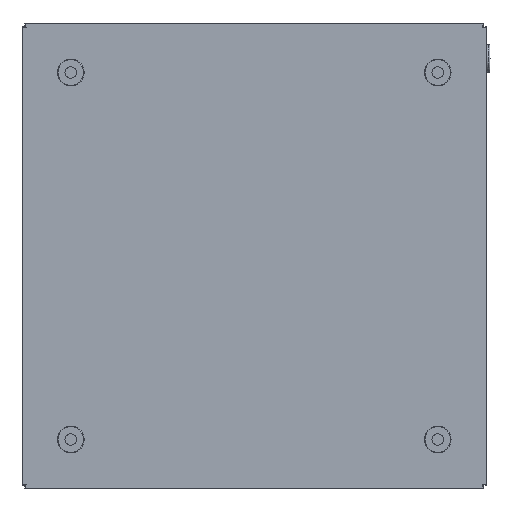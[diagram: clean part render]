
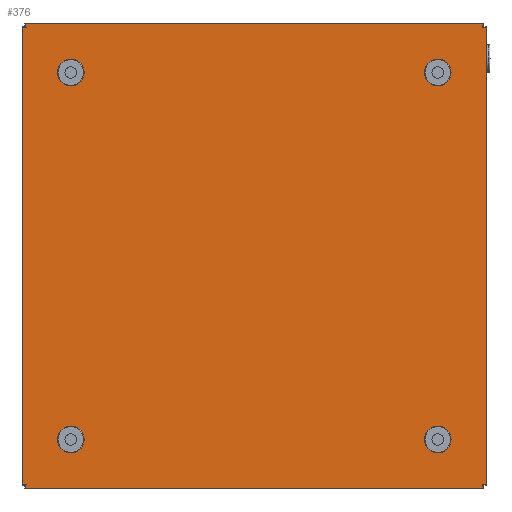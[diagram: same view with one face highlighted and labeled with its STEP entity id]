
A CAD part, front view. The second image highlights one B-rep face of the part: STEP entity #376.
In plain terms, the highlighted planar face has unit normal (0, -1, 0).
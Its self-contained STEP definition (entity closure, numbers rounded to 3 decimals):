
#376 = ADVANCED_FACE('',(#377,#397,#408,#428,#439),#561,.T.);
#377 = FACE_BOUND('',#378,.T.);
#378 = EDGE_LOOP('',(#379,#390));
#379 = ORIENTED_EDGE('',*,*,#380,.F.);
#380 = EDGE_CURVE('',#381,#383,#385,.T.);
#381 = VERTEX_POINT('',#382);
#382 = CARTESIAN_POINT('',(-79.,-1.2,-75.1));
#383 = VERTEX_POINT('',#384);
#384 = CARTESIAN_POINT('',(-79.,-1.2,-82.9));
#385 = CIRCLE('',#386,3.9);
#386 = AXIS2_PLACEMENT_3D('',#387,#388,#389);
#387 = CARTESIAN_POINT('',(-79.,-1.2,-79.));
#388 = DIRECTION('',(0.,-1.,0.));
#389 = DIRECTION('',(0.,0.,1.));
#390 = ORIENTED_EDGE('',*,*,#391,.F.);
#391 = EDGE_CURVE('',#383,#381,#392,.T.);
#392 = CIRCLE('',#393,3.9);
#393 = AXIS2_PLACEMENT_3D('',#394,#395,#396);
#394 = CARTESIAN_POINT('',(-79.,-1.2,-79.));
#395 = DIRECTION('',(0.,-1.,0.));
#396 = DIRECTION('',(0.,0.,1.));
#397 = FACE_BOUND('',#398,.T.);
#398 = EDGE_LOOP('',(#399));
#399 = ORIENTED_EDGE('',*,*,#400,.F.);
#400 = EDGE_CURVE('',#401,#401,#403,.T.);
#401 = VERTEX_POINT('',#402);
#402 = CARTESIAN_POINT('',(79.,-1.2,-82.9));
#403 = CIRCLE('',#404,3.9);
#404 = AXIS2_PLACEMENT_3D('',#405,#406,#407);
#405 = CARTESIAN_POINT('',(79.,-1.2,-79.));
#406 = DIRECTION('',(0.,-1.,0.));
#407 = DIRECTION('',(0.,0.,-1.));
#408 = FACE_BOUND('',#409,.T.);
#409 = EDGE_LOOP('',(#410,#421));
#410 = ORIENTED_EDGE('',*,*,#411,.F.);
#411 = EDGE_CURVE('',#412,#414,#416,.T.);
#412 = VERTEX_POINT('',#413);
#413 = CARTESIAN_POINT('',(79.,-1.2,82.9));
#414 = VERTEX_POINT('',#415);
#415 = CARTESIAN_POINT('',(79.,-1.2,75.1));
#416 = CIRCLE('',#417,3.9);
#417 = AXIS2_PLACEMENT_3D('',#418,#419,#420);
#418 = CARTESIAN_POINT('',(79.,-1.2,79.));
#419 = DIRECTION('',(0.,-1.,0.));
#420 = DIRECTION('',(0.,0.,1.));
#421 = ORIENTED_EDGE('',*,*,#422,.F.);
#422 = EDGE_CURVE('',#414,#412,#423,.T.);
#423 = CIRCLE('',#424,3.9);
#424 = AXIS2_PLACEMENT_3D('',#425,#426,#427);
#425 = CARTESIAN_POINT('',(79.,-1.2,79.));
#426 = DIRECTION('',(0.,-1.,0.));
#427 = DIRECTION('',(0.,0.,1.));
#428 = FACE_BOUND('',#429,.T.);
#429 = EDGE_LOOP('',(#430));
#430 = ORIENTED_EDGE('',*,*,#431,.F.);
#431 = EDGE_CURVE('',#432,#432,#434,.T.);
#432 = VERTEX_POINT('',#433);
#433 = CARTESIAN_POINT('',(-79.,-1.2,75.1));
#434 = CIRCLE('',#435,3.9);
#435 = AXIS2_PLACEMENT_3D('',#436,#437,#438);
#436 = CARTESIAN_POINT('',(-79.,-1.2,79.));
#437 = DIRECTION('',(0.,-1.,0.));
#438 = DIRECTION('',(0.,0.,-1.));
#439 = FACE_BOUND('',#440,.T.);
#440 = EDGE_LOOP('',(#441,#454,#465,#473,#484,#495,#503,#514,#525,#533,
    #544,#555));
#441 = ORIENTED_EDGE('',*,*,#442,.F.);
#442 = EDGE_CURVE('',#443,#445,#447,.T.);
#443 = VERTEX_POINT('',#444);
#444 = CARTESIAN_POINT('',(98.2,-1.2,98.2));
#445 = VERTEX_POINT('',#446);
#446 = CARTESIAN_POINT('',(100.,-1.2,98.574));
#447 = B_SPLINE_CURVE_WITH_KNOTS('',3,(#448,#449,#450,#451,#452,#453),
  .UNSPECIFIED.,.F.,.F.,(4,2,4),(0.004,0.005,
    0.006),.UNSPECIFIED.);
#448 = CARTESIAN_POINT('',(98.2,-1.2,98.2));
#449 = CARTESIAN_POINT('',(98.495,-1.2,98.287));
#450 = CARTESIAN_POINT('',(98.79,-1.2,98.371));
#451 = CARTESIAN_POINT('',(99.39,-1.2,98.498));
#452 = CARTESIAN_POINT('',(99.695,-1.2,98.543));
#453 = CARTESIAN_POINT('',(100.,-1.2,98.574));
#454 = ORIENTED_EDGE('',*,*,#455,.T.);
#455 = EDGE_CURVE('',#443,#456,#458,.T.);
#456 = VERTEX_POINT('',#457);
#457 = CARTESIAN_POINT('',(98.574,-1.2,100.));
#458 = B_SPLINE_CURVE_WITH_KNOTS('',3,(#459,#460,#461,#462,#463,#464),
  .UNSPECIFIED.,.F.,.F.,(4,2,4),(0.004,0.005,
    0.006),.UNSPECIFIED.);
#459 = CARTESIAN_POINT('',(98.2,-1.2,98.2));
#460 = CARTESIAN_POINT('',(98.287,-1.2,98.495));
#461 = CARTESIAN_POINT('',(98.371,-1.2,98.79));
#462 = CARTESIAN_POINT('',(98.498,-1.2,99.39));
#463 = CARTESIAN_POINT('',(98.543,-1.2,99.695));
#464 = CARTESIAN_POINT('',(98.574,-1.2,100.));
#465 = ORIENTED_EDGE('',*,*,#466,.T.);
#466 = EDGE_CURVE('',#456,#467,#469,.T.);
#467 = VERTEX_POINT('',#468);
#468 = CARTESIAN_POINT('',(-98.574,-1.2,100.));
#469 = LINE('',#470,#471);
#470 = CARTESIAN_POINT('',(1100.,-1.2,100.));
#471 = VECTOR('',#472,1.);
#472 = DIRECTION('',(-1.,0.,0.));
#473 = ORIENTED_EDGE('',*,*,#474,.F.);
#474 = EDGE_CURVE('',#475,#467,#477,.T.);
#475 = VERTEX_POINT('',#476);
#476 = CARTESIAN_POINT('',(-98.2,-1.2,98.2));
#477 = B_SPLINE_CURVE_WITH_KNOTS('',3,(#478,#479,#480,#481,#482,#483),
  .UNSPECIFIED.,.F.,.F.,(4,2,4),(0.004,0.005,
    0.006),.UNSPECIFIED.);
#478 = CARTESIAN_POINT('',(-98.2,-1.2,98.2));
#479 = CARTESIAN_POINT('',(-98.287,-1.2,98.495));
#480 = CARTESIAN_POINT('',(-98.371,-1.2,98.79));
#481 = CARTESIAN_POINT('',(-98.498,-1.2,99.39));
#482 = CARTESIAN_POINT('',(-98.543,-1.2,99.695));
#483 = CARTESIAN_POINT('',(-98.574,-1.2,100.));
#484 = ORIENTED_EDGE('',*,*,#485,.T.);
#485 = EDGE_CURVE('',#475,#486,#488,.T.);
#486 = VERTEX_POINT('',#487);
#487 = CARTESIAN_POINT('',(-100.,-1.2,98.574));
#488 = B_SPLINE_CURVE_WITH_KNOTS('',3,(#489,#490,#491,#492,#493,#494),
  .UNSPECIFIED.,.F.,.F.,(4,2,4),(0.004,0.005,
    0.006),.UNSPECIFIED.);
#489 = CARTESIAN_POINT('',(-98.2,-1.2,98.2));
#490 = CARTESIAN_POINT('',(-98.495,-1.2,98.287));
#491 = CARTESIAN_POINT('',(-98.79,-1.2,98.371));
#492 = CARTESIAN_POINT('',(-99.39,-1.2,98.498));
#493 = CARTESIAN_POINT('',(-99.695,-1.2,98.543));
#494 = CARTESIAN_POINT('',(-100.,-1.2,98.574));
#495 = ORIENTED_EDGE('',*,*,#496,.T.);
#496 = EDGE_CURVE('',#486,#497,#499,.T.);
#497 = VERTEX_POINT('',#498);
#498 = CARTESIAN_POINT('',(-100.,-1.2,-98.574));
#499 = LINE('',#500,#501);
#500 = CARTESIAN_POINT('',(-100.,-1.2,1100.));
#501 = VECTOR('',#502,1.);
#502 = DIRECTION('',(0.,0.,-1.));
#503 = ORIENTED_EDGE('',*,*,#504,.F.);
#504 = EDGE_CURVE('',#505,#497,#507,.T.);
#505 = VERTEX_POINT('',#506);
#506 = CARTESIAN_POINT('',(-98.2,-1.2,-98.2));
#507 = B_SPLINE_CURVE_WITH_KNOTS('',3,(#508,#509,#510,#511,#512,#513),
  .UNSPECIFIED.,.F.,.F.,(4,2,4),(0.004,0.005,
    0.006),.UNSPECIFIED.);
#508 = CARTESIAN_POINT('',(-98.2,-1.2,-98.2));
#509 = CARTESIAN_POINT('',(-98.495,-1.2,-98.287));
#510 = CARTESIAN_POINT('',(-98.79,-1.2,-98.371));
#511 = CARTESIAN_POINT('',(-99.39,-1.2,-98.498));
#512 = CARTESIAN_POINT('',(-99.695,-1.2,-98.543));
#513 = CARTESIAN_POINT('',(-100.,-1.2,-98.574));
#514 = ORIENTED_EDGE('',*,*,#515,.T.);
#515 = EDGE_CURVE('',#505,#516,#518,.T.);
#516 = VERTEX_POINT('',#517);
#517 = CARTESIAN_POINT('',(-98.574,-1.2,-100.));
#518 = B_SPLINE_CURVE_WITH_KNOTS('',3,(#519,#520,#521,#522,#523,#524),
  .UNSPECIFIED.,.F.,.F.,(4,2,4),(0.004,0.005,
    0.006),.UNSPECIFIED.);
#519 = CARTESIAN_POINT('',(-98.2,-1.2,-98.2));
#520 = CARTESIAN_POINT('',(-98.287,-1.2,-98.495));
#521 = CARTESIAN_POINT('',(-98.371,-1.2,-98.79));
#522 = CARTESIAN_POINT('',(-98.498,-1.2,-99.39));
#523 = CARTESIAN_POINT('',(-98.543,-1.2,-99.695));
#524 = CARTESIAN_POINT('',(-98.574,-1.2,-100.));
#525 = ORIENTED_EDGE('',*,*,#526,.T.);
#526 = EDGE_CURVE('',#516,#527,#529,.T.);
#527 = VERTEX_POINT('',#528);
#528 = CARTESIAN_POINT('',(98.574,-1.2,-100.));
#529 = LINE('',#530,#531);
#530 = CARTESIAN_POINT('',(-1100.,-1.2,-100.));
#531 = VECTOR('',#532,1.);
#532 = DIRECTION('',(1.,0.,0.));
#533 = ORIENTED_EDGE('',*,*,#534,.F.);
#534 = EDGE_CURVE('',#535,#527,#537,.T.);
#535 = VERTEX_POINT('',#536);
#536 = CARTESIAN_POINT('',(98.2,-1.2,-98.2));
#537 = B_SPLINE_CURVE_WITH_KNOTS('',3,(#538,#539,#540,#541,#542,#543),
  .UNSPECIFIED.,.F.,.F.,(4,2,4),(0.004,0.005,
    0.006),.UNSPECIFIED.);
#538 = CARTESIAN_POINT('',(98.2,-1.2,-98.2));
#539 = CARTESIAN_POINT('',(98.287,-1.2,-98.495));
#540 = CARTESIAN_POINT('',(98.371,-1.2,-98.79));
#541 = CARTESIAN_POINT('',(98.498,-1.2,-99.39));
#542 = CARTESIAN_POINT('',(98.543,-1.2,-99.695));
#543 = CARTESIAN_POINT('',(98.574,-1.2,-100.));
#544 = ORIENTED_EDGE('',*,*,#545,.T.);
#545 = EDGE_CURVE('',#535,#546,#548,.T.);
#546 = VERTEX_POINT('',#547);
#547 = CARTESIAN_POINT('',(100.,-1.2,-98.574));
#548 = B_SPLINE_CURVE_WITH_KNOTS('',3,(#549,#550,#551,#552,#553,#554),
  .UNSPECIFIED.,.F.,.F.,(4,2,4),(0.004,0.005,
    0.006),.UNSPECIFIED.);
#549 = CARTESIAN_POINT('',(98.2,-1.2,-98.2));
#550 = CARTESIAN_POINT('',(98.495,-1.2,-98.287));
#551 = CARTESIAN_POINT('',(98.79,-1.2,-98.371));
#552 = CARTESIAN_POINT('',(99.39,-1.2,-98.498));
#553 = CARTESIAN_POINT('',(99.695,-1.2,-98.543));
#554 = CARTESIAN_POINT('',(100.,-1.2,-98.574));
#555 = ORIENTED_EDGE('',*,*,#556,.T.);
#556 = EDGE_CURVE('',#546,#445,#557,.T.);
#557 = LINE('',#558,#559);
#558 = CARTESIAN_POINT('',(100.,-1.2,-1100.));
#559 = VECTOR('',#560,1.);
#560 = DIRECTION('',(0.,0.,1.));
#561 = PLANE('',#562);
#562 = AXIS2_PLACEMENT_3D('',#563,#564,#565);
#563 = CARTESIAN_POINT('',(0.,-1.2,0.));
#564 = DIRECTION('',(0.,-1.,0.));
#565 = DIRECTION('',(0.,-0.,-1.));
